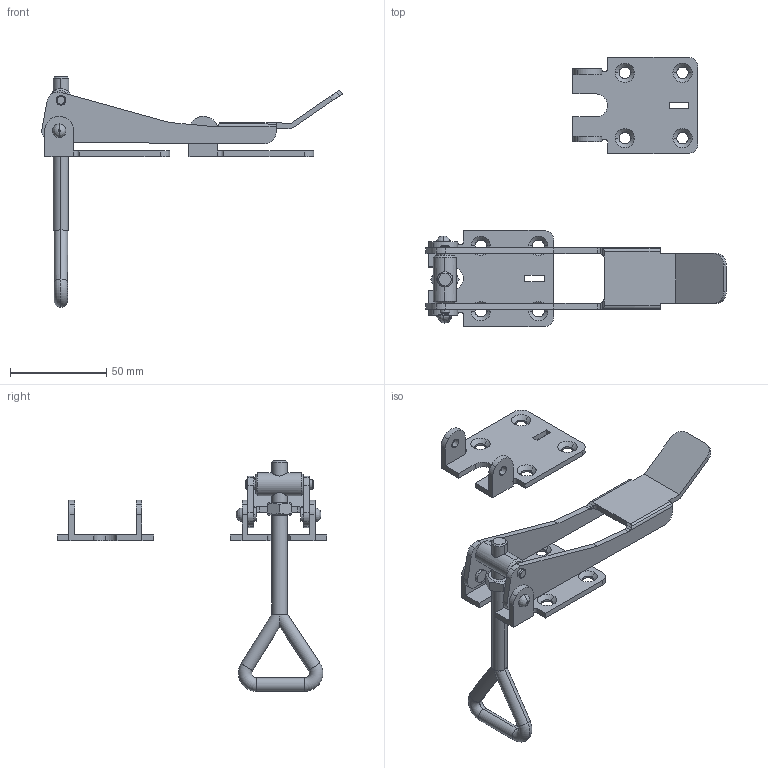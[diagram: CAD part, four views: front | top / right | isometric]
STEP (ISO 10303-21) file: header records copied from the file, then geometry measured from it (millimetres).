
FILE_DESCRIPTION((''),'2;1');
FILE_NAME('3471-90°.stp','2017-11-10T10:12:00',(''),(''),'Mechanical Desktop 2006','Mechanical Desktop 2006',', , ');
FILE_SCHEMA(('CONFIG_CONTROL_DESIGN'));
Length unit declared in the file: millimetre
Products named in the file (7): 3471-90ｰ; BOL M8 123-3; GRIF 1; B軶E  L96; TEIL3; SECHSKANTMUTTER - DIN 555-5 - M8; ~GRUNDPLATE 3
Assembly tree (8 placements, depth 2):
  3471-90ｰ
    BOL M8 123-3
    GRIF 1
    B軶E  L96
    TEIL3  x2
    SECHSKANTMUTTER - DIN 555-5 - M8
    ~GRUNDPLATE 3  x2
Bounding box: 156.23 x 140.03 x 120 mm (x, y, z)
Volume: 45892.7 mm3; surface area: 34657.2 mm2
Topology: 8 solids, 8 shells, 243 faces, 629 edges, 404 vertices
Faces by surface type: cylinder 108, plane 89, cone 34, bspline 6, torus 6
Entity records: 6495 total; most frequent: CARTESIAN_POINT 1724, DIRECTION 1009, ORIENTED_EDGE 944, EDGE_CURVE 472, AXIS2_PLACEMENT_3D 390, VERTEX_POINT 302, VECTOR 229, LINE 229
